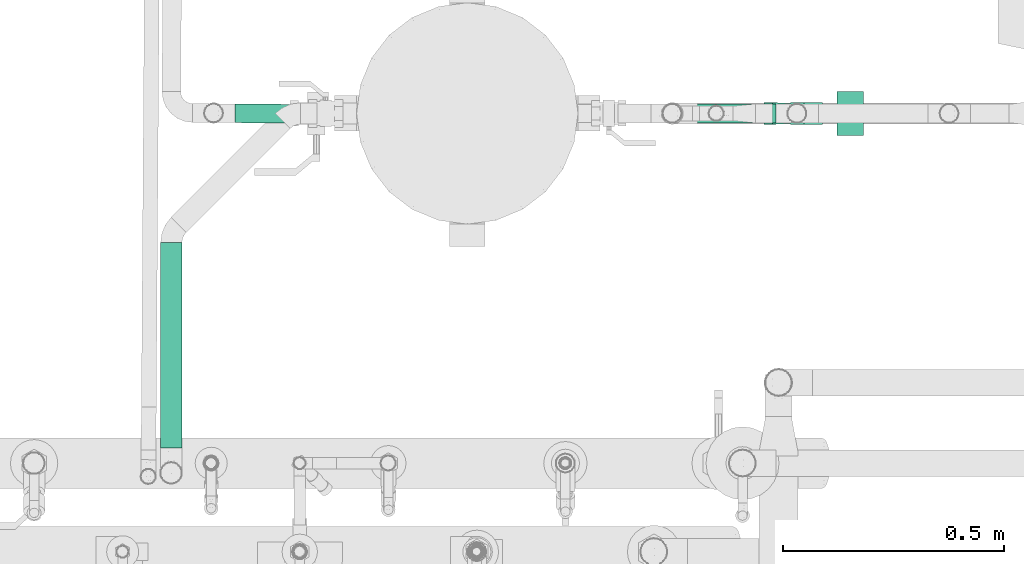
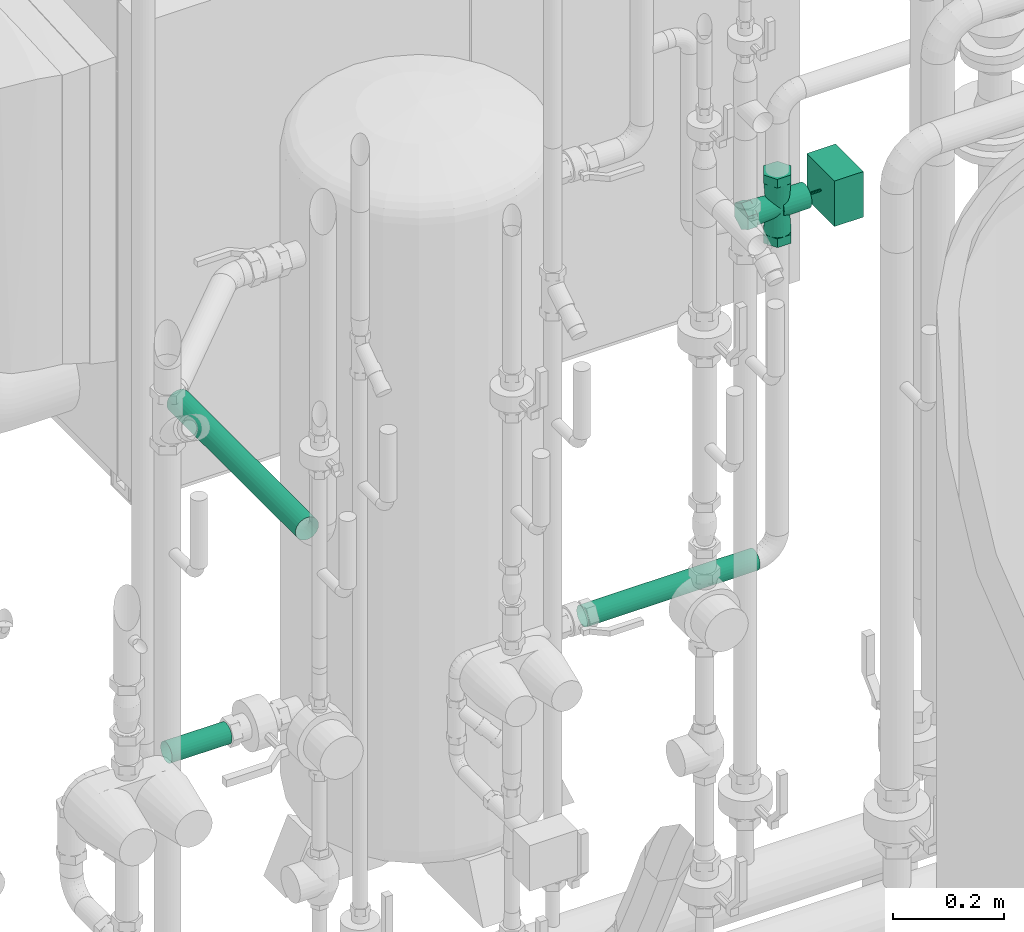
# One storey, part 280 of 374: 3 flow segments, 1 flow controller.
"""IFC2X3 building model written with IfcOpenShell, lengths in metres."""

from ifc_helpers import new_model, si_unit, direction, origin, place, context, subcontext, project, spatial, open_shell, surface_model, source, transform, mapped, element, save


model = new_model("IFC2X3")

# Units and contexts
model_context = context("Model", 3, precision=1e-05, world=origin(), true_north=direction((-0.4480736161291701, 0.8939966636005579)))
body_context = subcontext(model_context, "Body", "Model", "MODEL_VIEW")
ifc_project = project(units=[si_unit("LENGTHUNIT", "METRE"), si_unit("AREAUNIT", "SQUARE_METRE"), si_unit("VOLUMEUNIT", "CUBIC_METRE"), si_unit("PLANEANGLEUNIT", "RADIAN"), si_unit("THERMODYNAMICTEMPERATUREUNIT", "KELVIN"), si_unit("MASSUNIT", "GRAM", prefix="KILO"), si_unit("TIMEUNIT", "SECOND")], contexts=[model_context])

# Site, building, storey
site_placement = place(None, origin())
site = spatial("IfcSite", under=ifc_project, at=site_placement, Name="Site 1", CompositionType="ELEMENT")
building_placement = place(site_placement, origin())
building = spatial("IfcBuilding", under=site, at=building_placement, Name="Undefined", CompositionType="ELEMENT")
storey_placement = place(building_placement, origin())
storey = spatial("IfcBuildingStorey", under=building, at=storey_placement, Name="Rez de chauss\x8ee", CompositionType="ELEMENT", Elevation=0.0)

# Flow controller
shared_shape_1 = source(origin(), body_context, "Body", "SurfaceModel", [
    surface_model("IfcFaceBasedSurfaceModel", [(0.0, 0.0, 0.0), (0.10000000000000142, 8.8817842e-16, 1.776356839e-15), (0.10000000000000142, 0.09999999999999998, 0.0), (0.0, 0.09999999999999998, 0.0), (0.10000000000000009, 0.09999999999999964, -0.05999999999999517), (0.0, 0.09999999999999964, -0.05999999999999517), (0.10000000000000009, 0.0, -0.05999999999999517), (0.0, 0.0, -0.05999999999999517), (-0.02499999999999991, 0.025000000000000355, 0.10443375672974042), (-0.02499999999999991, 0.025000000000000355, 0.07556624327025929), (-0.005900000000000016, 0.025000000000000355, 0.07556624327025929), (-0.005900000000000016, 0.025000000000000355, 0.10443375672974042), (-0.02499999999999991, 0.049999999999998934, 0.11886751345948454), (-0.005900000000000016, 0.049999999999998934, 0.11886751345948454), (-0.02499999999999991, 0.07499999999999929, 0.10443375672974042), (-0.005900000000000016, 0.07499999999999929, 0.10443375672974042), (-0.02499999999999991, 0.07499999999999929, 0.07556624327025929), (-0.005900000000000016, 0.07499999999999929, 0.07556624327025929), (-0.02499999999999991, 0.049999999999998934, 0.06113248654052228), (-0.005900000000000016, 0.049999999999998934, 0.06113248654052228), (-0.005900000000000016, 0.049999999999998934, 0.11500000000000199), (-0.005900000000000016, 0.04352952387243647, 0.11414814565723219), (0.050000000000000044, 0.044513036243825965, 0.11047762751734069), (0.050000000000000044, 0.049999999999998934, 0.11120000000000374), (-0.005900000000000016, 0.037499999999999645, 0.11165063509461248), (0.050000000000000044, 0.03939999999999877, 0.10835973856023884), (-0.005900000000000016, 0.03232233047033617, 0.1076776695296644), (0.050000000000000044, 0.03500933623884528, 0.10499066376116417), (-0.005900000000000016, 0.028349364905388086, 0.10249999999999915), (0.050000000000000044, 0.03164026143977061, 0.10060000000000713), (-0.005900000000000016, 0.02585185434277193, 0.0964704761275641), (0.050000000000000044, 0.02952237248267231, 0.09548696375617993), (-0.005900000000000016, 0.025000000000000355, 0.09000000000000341), (0.050000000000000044, 0.028799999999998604, 0.09000000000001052), (-0.005900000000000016, 0.02585185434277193, 0.08352952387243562), (0.050000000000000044, 0.02952237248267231, 0.084513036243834), (-0.005900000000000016, 0.028349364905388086, 0.07750000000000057), (0.050000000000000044, 0.03164026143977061, 0.0794000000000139), (-0.005900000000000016, 0.03232233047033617, 0.07232233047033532), (0.050000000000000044, 0.03500933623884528, 0.07500933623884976), (-0.005900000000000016, 0.037499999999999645, 0.06834936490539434), (0.050000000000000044, 0.03939999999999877, 0.0716402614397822), (-0.005900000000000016, 0.04352952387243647, 0.06585185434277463), (0.050000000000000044, 0.044513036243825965, 0.06952237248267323), (-0.005900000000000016, 0.049999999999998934, 0.06500000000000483), (0.050000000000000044, 0.049999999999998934, 0.06880000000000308), (-0.005900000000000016, 0.0564704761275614, 0.06585185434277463), (0.050000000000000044, 0.05548696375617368, 0.06952237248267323), (-0.005900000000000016, 0.0625, 0.06834936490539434), (0.050000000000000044, 0.060600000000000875, 0.0716402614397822), (-0.005900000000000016, 0.06767766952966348, 0.07232233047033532), (0.050000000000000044, 0.06499066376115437, 0.07500933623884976), (-0.005900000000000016, 0.07165063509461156, 0.07750000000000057), (0.050000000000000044, 0.06835973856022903, 0.0794000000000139), (-0.005900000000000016, 0.07414814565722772, 0.08352952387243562), (0.050000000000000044, 0.07047762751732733, 0.084513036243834), (-0.005900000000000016, 0.07499999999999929, 0.09000000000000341), (0.050000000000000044, 0.07120000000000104, 0.09000000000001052), (-0.005900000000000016, 0.07414814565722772, 0.0964704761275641), (0.050000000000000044, 0.07047762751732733, 0.09548696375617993), (-0.005900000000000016, 0.07165063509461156, 0.10249999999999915), (0.050000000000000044, 0.06835973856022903, 0.10060000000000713), (-0.005900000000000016, 0.06767766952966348, 0.1076776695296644), (0.050000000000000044, 0.06499066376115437, 0.10499066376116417), (-0.005900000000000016, 0.0625, 0.11165063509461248), (0.050000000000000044, 0.060600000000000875, 0.10835973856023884), (-0.005900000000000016, 0.0564704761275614, 0.11414814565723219), (0.050000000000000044, 0.05548696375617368, 0.11047762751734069), (0.10589999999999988, 0.043529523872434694, 0.11414814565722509), (0.10589999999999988, 0.04999999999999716, 0.11499999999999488), (0.10589999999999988, 0.03749999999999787, 0.11165063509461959), (0.10589999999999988, 0.03232233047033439, 0.1076776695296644), (0.10589999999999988, 0.028349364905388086, 0.10249999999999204), (0.10589999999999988, 0.02585185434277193, 0.09647047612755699), (0.10589999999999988, 0.02499999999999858, 0.0899999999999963), (0.10589999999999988, 0.02585185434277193, 0.08352952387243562), (0.10589999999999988, 0.028349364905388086, 0.07750000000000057), (0.10589999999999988, 0.03232233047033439, 0.07232233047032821), (0.10589999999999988, 0.03749999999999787, 0.06834936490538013), (0.10589999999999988, 0.043529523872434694, 0.06585185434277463), (0.10589999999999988, 0.04999999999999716, 0.06500000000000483), (0.10589999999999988, 0.0564704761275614, 0.06585185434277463), (0.10589999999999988, 0.0625, 0.06834936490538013), (0.10589999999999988, 0.06767766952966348, 0.07232233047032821), (0.10589999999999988, 0.07165063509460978, 0.07750000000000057), (0.10589999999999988, 0.07414814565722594, 0.08352952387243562), (0.10589999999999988, 0.07499999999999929, 0.0899999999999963), (0.10589999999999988, 0.07414814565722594, 0.09647047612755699), (0.10589999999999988, 0.07165063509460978, 0.10249999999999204), (0.10589999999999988, 0.06767766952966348, 0.1076776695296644), (0.10589999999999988, 0.0625, 0.11165063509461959), (0.10589999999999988, 0.0564704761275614, 0.11414814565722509), (0.1059000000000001, 0.025000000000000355, 0.10443375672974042), (0.1059000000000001, 0.025000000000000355, 0.07556624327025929), (0.125, 0.025000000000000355, 0.07556624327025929), (0.125, 0.025000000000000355, 0.10443375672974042), (0.1059000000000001, 0.049999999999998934, 0.11886751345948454), (0.125, 0.049999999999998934, 0.11886751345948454), (0.1059000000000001, 0.07499999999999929, 0.10443375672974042), (0.125, 0.07499999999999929, 0.10443375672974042), (0.1059000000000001, 0.07499999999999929, 0.07556624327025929), (0.125, 0.07499999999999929, 0.07556624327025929), (0.1059000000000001, 0.049999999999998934, 0.06113248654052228), (0.125, 0.049999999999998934, 0.06113248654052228), (0.050000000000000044, 0.07499999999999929, 0.09000000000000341), (0.05647047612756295, 0.07414814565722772, 0.09000000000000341), (0.05647047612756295, 0.07414814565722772, 0.03249999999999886), (0.050000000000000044, 0.07499999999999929, 0.03249999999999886), (0.0625, 0.07165063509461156, 0.09000000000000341), (0.0625, 0.07165063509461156, 0.03249999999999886), (0.0676776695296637, 0.06767766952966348, 0.09000000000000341), (0.0676776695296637, 0.06767766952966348, 0.03249999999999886), (0.07165063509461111, 0.0625, 0.09000000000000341), (0.07165063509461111, 0.0625, 0.03249999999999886), (0.07414814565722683, 0.0564704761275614, 0.09000000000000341), (0.07414814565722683, 0.0564704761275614, 0.03249999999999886), (0.07500000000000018, 0.049999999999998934, 0.09000000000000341), (0.07500000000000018, 0.049999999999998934, 0.03249999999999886), (0.07414814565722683, 0.04352952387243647, 0.09000000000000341), (0.07414814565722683, 0.04352952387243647, 0.03249999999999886), (0.07165063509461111, 0.037499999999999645, 0.09000000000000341), (0.07165063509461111, 0.037499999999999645, 0.03249999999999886), (0.0676776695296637, 0.03232233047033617, 0.09000000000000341), (0.0676776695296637, 0.03232233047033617, 0.03249999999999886), (0.0625, 0.028349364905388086, 0.09000000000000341), (0.0625, 0.028349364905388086, 0.03249999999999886), (0.05647047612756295, 0.02585185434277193, 0.09000000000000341), (0.05647047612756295, 0.02585185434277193, 0.03249999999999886), (0.050000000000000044, 0.025000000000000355, 0.09000000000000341), (0.050000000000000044, 0.025000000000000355, 0.03249999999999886), (0.04352952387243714, 0.02585185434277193, 0.09000000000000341), (0.04352952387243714, 0.02585185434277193, 0.03249999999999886), (0.03750000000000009, 0.028349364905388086, 0.09000000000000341), (0.03750000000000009, 0.028349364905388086, 0.03249999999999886), (0.03232233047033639, 0.03232233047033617, 0.09000000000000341), (0.03232233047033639, 0.03232233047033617, 0.03249999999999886), (0.028349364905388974, 0.037499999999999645, 0.09000000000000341), (0.028349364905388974, 0.037499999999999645, 0.03249999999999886), (0.025851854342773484, 0.04352952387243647, 0.09000000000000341), (0.025851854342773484, 0.04352952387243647, 0.03249999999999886), (0.025000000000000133, 0.049999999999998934, 0.09000000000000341), (0.025000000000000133, 0.049999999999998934, 0.03249999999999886), (0.025851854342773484, 0.0564704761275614, 0.09000000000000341), (0.025851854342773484, 0.0564704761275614, 0.03249999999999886), (0.028349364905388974, 0.0625, 0.09000000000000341), (0.028349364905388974, 0.0625, 0.03249999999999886), (0.03232233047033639, 0.06767766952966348, 0.09000000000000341), (0.03232233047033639, 0.06767766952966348, 0.03249999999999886), (0.03750000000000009, 0.07165063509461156, 0.09000000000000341), (0.03750000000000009, 0.07165063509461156, 0.03249999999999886), (0.04352952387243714, 0.07414814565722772, 0.09000000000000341), (0.04352952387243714, 0.07414814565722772, 0.03249999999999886), (0.050000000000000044, 0.049999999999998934, 0.09000000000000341), (0.050000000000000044, 0.049999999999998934, 0.03249999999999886), (0.050000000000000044, 0.05250000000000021, 0.03249999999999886), (0.05176776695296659, 0.05176776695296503, 0.03249999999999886), (0.05176776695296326, 0.051767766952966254, 0.0), (0.04999999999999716, 0.05249999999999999, 0.0), (0.05249999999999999, 0.049999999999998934, 0.03249999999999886), (0.052499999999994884, 0.04999999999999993, 0.0), (0.05176776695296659, 0.04823223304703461, 0.03249999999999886), (0.05176776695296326, 0.04823223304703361, 0.0), (0.050000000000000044, 0.04749999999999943, 0.03249999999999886), (0.04999999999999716, 0.04749999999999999, 0.0), (0.048232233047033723, 0.04823223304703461, 0.03249999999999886), (0.04823223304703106, 0.04823223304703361, 0.0), (0.0475000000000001, 0.049999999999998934, 0.03249999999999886), (0.04749999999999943, 0.04999999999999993, 0.0), (0.048232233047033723, 0.05176776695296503, 0.03249999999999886), (0.04823223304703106, 0.051767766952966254, 0.0), (0.05000000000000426, 0.04999999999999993, 0.0), (0.028799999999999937, 0.049999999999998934, 0.09000000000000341), (0.029522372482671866, 0.044513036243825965, 0.09000000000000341), (0.025851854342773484, 0.04352952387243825, 0.14590000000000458), (0.025000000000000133, 0.05000000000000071, 0.14590000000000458), (0.031640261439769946, 0.03939999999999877, 0.09000000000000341), (0.028349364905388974, 0.03750000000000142, 0.14590000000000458), (0.03500933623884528, 0.03500933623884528, 0.09000000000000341), (0.03232233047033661, 0.032322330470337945, 0.14590000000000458), (0.0394000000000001, 0.03164026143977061, 0.09000000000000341), (0.03750000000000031, 0.028349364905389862, 0.14590000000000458), (0.04451303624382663, 0.02952237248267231, 0.09000000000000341), (0.04352952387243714, 0.025851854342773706, 0.14590000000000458), (0.050000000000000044, 0.025000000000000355, 0.14590000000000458), (0.05548696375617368, 0.02952237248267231, 0.09000000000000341), (0.056470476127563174, 0.025851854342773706, 0.14590000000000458), (0.06059999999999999, 0.03164026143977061, 0.09000000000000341), (0.0625, 0.028349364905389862, 0.14590000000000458), (0.06499066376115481, 0.03500933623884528, 0.09000000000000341), (0.0676776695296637, 0.032322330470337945, 0.14590000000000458), (0.06835973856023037, 0.03939999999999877, 0.09000000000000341), (0.07165063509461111, 0.03750000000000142, 0.14590000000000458), (0.07047762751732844, 0.044513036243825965, 0.09000000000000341), (0.07414814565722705, 0.04352952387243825, 0.14590000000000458), (0.07120000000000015, 0.049999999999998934, 0.09000000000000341), (0.0750000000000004, 0.05000000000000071, 0.14590000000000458), (0.07047762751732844, 0.05548696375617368, 0.09000000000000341), (0.07414814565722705, 0.05647047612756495, 0.14590000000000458), (0.06835973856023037, 0.060600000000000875, 0.09000000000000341), (0.07165063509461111, 0.06250000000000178, 0.14590000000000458), (0.06499066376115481, 0.06499066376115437, 0.09000000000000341), (0.0676776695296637, 0.06767766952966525, 0.14590000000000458), (0.06059999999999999, 0.06835973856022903, 0.09000000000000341), (0.0625, 0.07165063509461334, 0.14590000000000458), (0.05548696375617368, 0.07047762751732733, 0.09000000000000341), (0.056470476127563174, 0.07414814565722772, 0.14590000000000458), (0.050000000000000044, 0.07500000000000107, 0.14590000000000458), (0.04451303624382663, 0.07047762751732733, 0.09000000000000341), (0.04352952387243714, 0.07414814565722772, 0.14590000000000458), (0.0394000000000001, 0.06835973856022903, 0.09000000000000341), (0.03750000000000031, 0.07165063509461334, 0.14590000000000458), (0.03500933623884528, 0.06499066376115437, 0.09000000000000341), (0.03232233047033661, 0.06767766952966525, 0.14590000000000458), (0.031640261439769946, 0.060600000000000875, 0.09000000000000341), (0.028349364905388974, 0.06250000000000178, 0.14590000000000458), (0.029522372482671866, 0.05548696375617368, 0.09000000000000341), (0.025851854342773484, 0.05647047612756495, 0.14590000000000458), (0.06443375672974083, 0.025000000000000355, 0.14590000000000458), (0.07886751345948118, 0.049999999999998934, 0.14590000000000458), (0.07886751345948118, 0.049999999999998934, 0.16499999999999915), (0.06443375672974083, 0.025000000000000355, 0.16499999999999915), (0.03556624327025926, 0.025000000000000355, 0.14590000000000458), (0.03556624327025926, 0.025000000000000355, 0.16499999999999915), (0.021132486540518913, 0.049999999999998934, 0.14590000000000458), (0.021132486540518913, 0.049999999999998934, 0.16499999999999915), (0.03556624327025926, 0.07499999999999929, 0.14590000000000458), (0.03556624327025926, 0.07499999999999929, 0.16499999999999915), (0.06443375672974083, 0.07499999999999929, 0.14590000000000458), (0.06443375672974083, 0.07499999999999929, 0.16499999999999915)], [open_shell([[[0, 1, 2, 3]], [[3, 2, 4, 5]], [[5, 4, 6, 7]], [[7, 6, 1, 0]], [[0, 3, 5, 7]], [[6, 4, 2, 1]], [[8, 9, 10, 11]], [[12, 8, 11, 13]], [[14, 12, 13, 15]], [[16, 14, 15, 17]], [[18, 16, 17, 19]], [[9, 18, 19, 10]], [[9, 8, 12]], [[9, 12, 14]], [[9, 14, 16]], [[9, 16, 18]], [[10, 13, 11]], [[10, 15, 13]], [[10, 17, 15]], [[10, 19, 17]], [[20, 21, 22, 23]], [[21, 24, 25, 22]], [[24, 26, 27, 25]], [[26, 28, 29, 27]], [[28, 30, 31, 29]], [[30, 32, 33, 31]], [[32, 34, 35, 33]], [[34, 36, 37, 35]], [[36, 38, 39, 37]], [[38, 40, 41, 39]], [[40, 42, 43, 41]], [[42, 44, 45, 43]], [[44, 46, 47, 45]], [[46, 48, 49, 47]], [[48, 50, 51, 49]], [[50, 52, 53, 51]], [[52, 54, 55, 53]], [[54, 56, 57, 55]], [[56, 58, 59, 57]], [[58, 60, 61, 59]], [[60, 62, 63, 61]], [[62, 64, 65, 63]], [[64, 66, 67, 65]], [[66, 20, 23, 67]], [[23, 22, 68, 69]], [[22, 25, 70, 68]], [[25, 27, 71, 70]], [[27, 29, 72, 71]], [[29, 31, 73, 72]], [[31, 33, 74, 73]], [[33, 35, 75, 74]], [[35, 37, 76, 75]], [[37, 39, 77, 76]], [[39, 41, 78, 77]], [[41, 43, 79, 78]], [[43, 45, 80, 79]], [[45, 47, 81, 80]], [[47, 49, 82, 81]], [[49, 51, 83, 82]], [[51, 53, 84, 83]], [[53, 55, 85, 84]], [[55, 57, 86, 85]], [[57, 59, 87, 86]], [[59, 61, 88, 87]], [[61, 63, 89, 88]], [[63, 65, 90, 89]], [[65, 67, 91, 90]], [[67, 23, 69, 91]], [[92, 93, 94, 95]], [[96, 92, 95, 97]], [[98, 96, 97, 99]], [[100, 98, 99, 101]], [[102, 100, 101, 103]], [[93, 102, 103, 94]], [[93, 92, 96]], [[93, 96, 98]], [[93, 98, 100]], [[93, 100, 102]], [[94, 97, 95]], [[94, 99, 97]], [[94, 101, 99]], [[94, 103, 101]], [[104, 105, 106, 107]], [[105, 108, 109, 106]], [[108, 110, 111, 109]], [[110, 112, 113, 111]], [[112, 114, 115, 113]], [[114, 116, 117, 115]], [[116, 118, 119, 117]], [[118, 120, 121, 119]], [[120, 122, 123, 121]], [[122, 124, 125, 123]], [[124, 126, 127, 125]], [[126, 128, 129, 127]], [[128, 130, 131, 129]], [[130, 132, 133, 131]], [[132, 134, 135, 133]], [[134, 136, 137, 135]], [[136, 138, 139, 137]], [[138, 140, 141, 139]], [[140, 142, 143, 141]], [[142, 144, 145, 143]], [[144, 146, 147, 145]], [[146, 148, 149, 147]], [[148, 150, 151, 149]], [[150, 104, 107, 151]], [[152, 105, 104]], [[152, 108, 105]], [[152, 110, 108]], [[152, 112, 110]], [[152, 114, 112]], [[152, 116, 114]], [[152, 118, 116]], [[152, 120, 118]], [[152, 122, 120]], [[152, 124, 122]], [[152, 126, 124]], [[152, 128, 126]], [[152, 130, 128]], [[152, 132, 130]], [[152, 134, 132]], [[152, 136, 134]], [[152, 138, 136]], [[152, 140, 138]], [[152, 142, 140]], [[152, 144, 142]], [[152, 146, 144]], [[152, 148, 146]], [[152, 150, 148]], [[152, 104, 150]], [[153, 151, 107]], [[153, 149, 151]], [[153, 147, 149]], [[153, 145, 147]], [[153, 143, 145]], [[153, 141, 143]], [[153, 139, 141]], [[153, 137, 139]], [[153, 135, 137]], [[153, 133, 135]], [[153, 131, 133]], [[153, 129, 131]], [[153, 127, 129]], [[153, 125, 127]], [[153, 123, 125]], [[153, 121, 123]], [[153, 119, 121]], [[153, 117, 119]], [[153, 115, 117]], [[153, 113, 115]], [[153, 111, 113]], [[153, 109, 111]], [[153, 106, 109]], [[153, 107, 106]], [[154, 155, 156, 157]], [[155, 158, 159, 156]], [[158, 160, 161, 159]], [[160, 162, 163, 161]], [[162, 164, 165, 163]], [[164, 166, 167, 165]], [[166, 168, 169, 167]], [[168, 154, 157, 169]], [[170, 169, 157]], [[170, 167, 169]], [[170, 165, 167]], [[170, 163, 165]], [[170, 161, 163]], [[170, 159, 161]], [[170, 156, 159]], [[170, 157, 156]], [[171, 172, 173, 174]], [[172, 175, 176, 173]], [[175, 177, 178, 176]], [[177, 179, 180, 178]], [[179, 181, 182, 180]], [[181, 33, 183, 182]], [[33, 184, 185, 183]], [[184, 186, 187, 185]], [[186, 188, 189, 187]], [[188, 190, 191, 189]], [[190, 192, 193, 191]], [[192, 194, 195, 193]], [[194, 196, 197, 195]], [[196, 198, 199, 197]], [[198, 200, 201, 199]], [[200, 202, 203, 201]], [[202, 204, 205, 203]], [[204, 57, 206, 205]], [[57, 207, 208, 206]], [[207, 209, 210, 208]], [[209, 211, 212, 210]], [[211, 213, 214, 212]], [[213, 215, 216, 214]], [[215, 171, 174, 216]], [[217, 218, 219, 220]], [[221, 217, 220, 222]], [[223, 221, 222, 224]], [[225, 223, 224, 226]], [[227, 225, 226, 228]], [[218, 227, 228, 219]], [[218, 217, 221]], [[218, 221, 223]], [[218, 223, 225]], [[218, 225, 227]], [[219, 222, 220]], [[219, 224, 222]], [[219, 226, 224]], [[219, 228, 226]]])]),
])
flow_controller_placement = place(storey_placement, origin())
element("IfcFlowController", 1, at=flow_controller_placement, inside=storey, Name="Vanne 3 voies", ObjectType="Vanne 3 voies", context=body_context, shape_type="MappedRepresentation", body=[
    mapped(shared_shape_1, transform((54.470571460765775, 11.758084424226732, 1.1835373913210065), x_axis=(0.0, 0.0, -1.0), y_axis=(0.0, -1.0, 0.0), z_axis=(-1.0, 0.0, 0.0))),
])

# Flow segments
shared_shape_2 = source(origin(), body_context, "Body", "SurfaceModel", [
    surface_model("IfcFaceBasedSurfaceModel", [(0.0, 0.005534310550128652, 0.0), (0.0, 0.0, 0.0), (0.35683383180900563, 2.22044605e-16, 0.0), (0.35683383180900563, 0.005534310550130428, -1.776356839e-15), (0.0, -0.00534573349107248, -0.0014323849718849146), (0.35683383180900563, -0.005345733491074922, -0.0014323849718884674), (0.0, -0.010138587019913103, -0.004199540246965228), (0.35683383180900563, -0.010138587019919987, -0.004199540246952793), (0.0, -0.01405193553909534, -0.008112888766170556), (0.35683383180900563, -0.014051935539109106, -0.008112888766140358), (0.0, -0.016819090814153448, -0.012905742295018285), (0.35683383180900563, -0.016819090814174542, -0.012905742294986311), (0.0, -0.018251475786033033, -0.018251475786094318), (0.35683383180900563, -0.018251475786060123, -0.018251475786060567), (0.0, -0.0182514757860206, -0.02378578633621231), (0.35683383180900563, -0.018251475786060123, -0.023785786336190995), (0.0, -0.01681909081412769, -0.029131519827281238), (0.35683383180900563, -0.016819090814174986, -0.02913151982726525), (0.0, -0.014051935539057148, -0.03392437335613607), (0.35683383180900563, -0.014051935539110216, -0.033924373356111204), (0.0, -0.010138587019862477, -0.037837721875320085), (0.35683383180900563, -0.010138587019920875, -0.037837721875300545), (0.0, -0.005345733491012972, -0.040604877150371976), (0.35683383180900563, -0.00534573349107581, -0.04060487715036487), (0.0, 6.4837024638e-14, -0.042037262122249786), (0.35683383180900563, -1.33226763e-15, -0.04203726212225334), (0.0, 0.005534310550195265, -0.04203726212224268), (0.35683383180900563, 0.005534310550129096, -0.04203726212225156), (0.0, 0.010880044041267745, -0.04060487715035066), (0.35683383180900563, 0.010880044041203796, -0.04060487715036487), (0.0, 0.01567289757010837, -0.03783772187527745), (0.35683383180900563, 0.01567289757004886, -0.037837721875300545), (0.0, 0.019586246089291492, -0.033924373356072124), (0.35683383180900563, 0.019586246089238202, -0.033924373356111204), (0.0, 0.0223534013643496, -0.029131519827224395), (0.35683383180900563, 0.022353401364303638, -0.029131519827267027), (0.0, 0.02378578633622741, -0.023785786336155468), (0.35683383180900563, 0.02378578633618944, -0.023785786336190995), (0.0, 0.023785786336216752, -0.01825147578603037), (0.35683383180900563, 0.02378578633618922, -0.018251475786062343), (0.0, 0.022353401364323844, -0.012905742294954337), (0.35683383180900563, 0.022353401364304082, -0.012905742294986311), (0.0, 0.019586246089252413, -0.008112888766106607), (0.35683383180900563, 0.01958624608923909, -0.008112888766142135), (0.0, 0.015672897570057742, -0.004199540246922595), (0.35683383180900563, 0.01567289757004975, -0.004199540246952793), (0.0, 0.010880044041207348, -0.0014323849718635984), (0.35683383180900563, 0.010880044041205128, -0.001432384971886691)], [open_shell([[[0, 1, 2, 3]], [[1, 4, 5, 2]], [[4, 6, 7, 5]], [[6, 8, 9, 7]], [[8, 10, 11, 9]], [[10, 12, 13, 11]], [[12, 14, 15, 13]], [[14, 16, 17, 15]], [[16, 18, 19, 17]], [[18, 20, 21, 19]], [[20, 22, 23, 21]], [[22, 24, 25, 23]], [[24, 26, 27, 25]], [[26, 28, 29, 27]], [[28, 30, 31, 29]], [[30, 32, 33, 31]], [[32, 34, 35, 33]], [[34, 36, 37, 35]], [[36, 38, 39, 37]], [[38, 40, 41, 39]], [[40, 42, 43, 41]], [[42, 44, 45, 43]], [[44, 46, 47, 45]], [[46, 0, 3, 47]]])]),
])
flow_segment_1_placement = place(storey_placement, origin())
element("IfcFlowSegment", 2, at=flow_segment_1_placement, inside=storey, Name="Tube acier d'après DIN 2448", ObjectType="Tube acier d'après DIN 2448", context=body_context, shape_type="MappedRepresentation", body=[
    mapped(shared_shape_2, transform((54.33257146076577, 11.687606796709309, 0.3764869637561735), x_axis=(-1.0, 0.0, 0.0), y_axis=(9.56658874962e-13, -0.13052619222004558, -0.9914448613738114), z_axis=(7.266545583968e-12, -0.9914448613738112, 0.13052619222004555))),
])
shared_shape_3 = source(origin(), body_context, "Body", "SurfaceModel", [
    surface_model("IfcFaceBasedSurfaceModel", [(0.12400000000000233, -2.22044605e-16, 1.776356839e-15), (0.12400000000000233, 0.005534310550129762, 1.776356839e-15), (0.0, 0.005534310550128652, 0.0), (0.0, 0.0, 0.0), (0.12400000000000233, 0.010880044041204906, -0.0014323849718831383), (0.0, 0.010880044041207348, -0.0014323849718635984), (0.12400000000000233, 0.01567289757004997, -0.004199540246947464), (0.0, 0.015672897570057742, -0.004199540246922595), (0.12400000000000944, 0.019586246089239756, -0.008112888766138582), (0.0, 0.019586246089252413, -0.008112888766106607), (0.12400000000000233, 0.022353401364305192, -0.012905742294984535), (0.0, 0.022353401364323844, -0.012905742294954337), (0.12400000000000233, 0.023785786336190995, -0.018251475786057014), (0.0, 0.023785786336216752, -0.01825147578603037), (0.12400000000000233, 0.023785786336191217, -0.023785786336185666), (0.0, 0.02378578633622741, -0.023785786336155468), (0.12400000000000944, 0.022353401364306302, -0.029131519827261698), (0.0, 0.0223534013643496, -0.029131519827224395), (0.12400000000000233, 0.019586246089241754, -0.03392437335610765), (0.0, 0.019586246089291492, -0.033924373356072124), (0.12400000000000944, 0.015672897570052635, -0.037837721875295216), (0.0, 0.01567289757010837, -0.03783772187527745), (0.12400000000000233, 0.010880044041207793, -0.04060487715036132), (0.0, 0.010880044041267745, -0.04060487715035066), (0.12400000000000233, 0.0055343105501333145, -0.04203726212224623), (0.0, 0.005534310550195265, -0.04203726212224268), (0.12400000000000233, 2.886579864e-15, -0.04203726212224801), (0.0, 6.4837024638e-14, -0.042037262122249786), (0.12400000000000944, -0.0053457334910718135, -0.04060487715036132), (0.0, -0.005345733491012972, -0.040604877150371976), (0.12400000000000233, -0.0101385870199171, -0.03783772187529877), (0.0, -0.010138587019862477, -0.037837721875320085), (0.12400000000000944, -0.014051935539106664, -0.03392437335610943), (0.0, -0.014051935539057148, -0.03392437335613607), (0.12400000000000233, -0.01681909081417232, -0.029131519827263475), (0.0, -0.01681909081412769, -0.029131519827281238), (0.12400000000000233, -0.018251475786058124, -0.023785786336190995), (0.0, -0.0182514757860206, -0.02378578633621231), (0.12400000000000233, -0.01825147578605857, -0.018251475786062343), (0.0, -0.018251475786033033, -0.018251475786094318), (0.12400000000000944, -0.01681909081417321, -0.012905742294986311), (0.0, -0.016819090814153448, -0.012905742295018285), (0.12400000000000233, -0.014051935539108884, -0.008112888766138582), (0.0, -0.01405193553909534, -0.008112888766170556), (0.12400000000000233, -0.010138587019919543, -0.0041995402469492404), (0.0, -0.010138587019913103, -0.004199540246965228), (0.12400000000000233, -0.005345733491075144, -0.0014323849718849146), (0.0, -0.00534573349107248, -0.0014323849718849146)], [open_shell([[[0, 1, 2, 3]], [[1, 4, 5, 2]], [[4, 6, 7, 5]], [[6, 8, 9, 7]], [[8, 10, 11, 9]], [[10, 12, 13, 11]], [[12, 14, 15, 13]], [[14, 16, 17, 15]], [[16, 18, 19, 17]], [[18, 20, 21, 19]], [[20, 22, 23, 21]], [[22, 24, 25, 23]], [[24, 26, 27, 25]], [[26, 28, 29, 27]], [[28, 30, 31, 29]], [[30, 32, 33, 31]], [[32, 34, 35, 33]], [[34, 36, 37, 35]], [[36, 38, 39, 37]], [[38, 40, 41, 39]], [[40, 42, 43, 41]], [[42, 44, 45, 43]], [[44, 46, 47, 45]], [[46, 0, 3, 47]]])]),
])
flow_segment_2_placement = place(storey_placement, origin())
element("IfcFlowSegment", 3, at=flow_segment_2_placement, inside=storey, Name="Tube acier d'après DIN 2448", ObjectType="Tube acier d'après DIN 2448", context=body_context, shape_type="MappedRepresentation", body=[
    mapped(shared_shape_3, transform((53.23507226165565, 11.68631886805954, 0.3741499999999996), x_axis=(-0.9999756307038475, 0.00698126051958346, -2.3185921e-16), y_axis=(0.0009112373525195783, 0.13052301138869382, -0.9914448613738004), z_axis=(-0.006921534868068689, -0.9914207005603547, -0.1305261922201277))),
])
shared_shape_4 = source(origin(), body_context, "Body", "SurfaceModel", [
    surface_model("IfcFaceBasedSurfaceModel", [(0.0, 0.006304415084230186, 7.105427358e-15), (0.0, 0.0, 0.0), (0.46326517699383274, 0.0, 8.8817842e-16), (0.46326517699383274, 0.006304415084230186, 8.8817842e-16), (0.0, -0.006089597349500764, -0.0016317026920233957), (0.46326517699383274, -0.006089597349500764, -0.001631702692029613), (0.0, -0.011549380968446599, -0.004783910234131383), (0.46326517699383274, -0.011549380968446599, -0.004783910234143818), (0.0, -0.016007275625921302, -0.009241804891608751), (0.46326517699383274, -0.01600727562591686, -0.009241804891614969), (0.0, -0.01915948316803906, -0.014701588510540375), (0.46326517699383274, -0.019159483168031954, -0.014701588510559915), (0.0, -0.020791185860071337, -0.020791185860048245), (0.46326517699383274, -0.020791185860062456, -0.020791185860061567), (0.0, -0.020791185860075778, -0.027095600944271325), (0.46326517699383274, -0.020791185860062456, -0.027095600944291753), (0.0, -0.01915948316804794, -0.03318519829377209), (0.46326517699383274, -0.019159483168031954, -0.03318519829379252), (0.0, -0.01600727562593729, -0.038644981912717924), (0.46326517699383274, -0.01600727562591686, -0.03864498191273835), (0.0, -0.011549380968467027, -0.0431028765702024), (0.46326517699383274, -0.011549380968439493, -0.04310287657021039), (0.0, -0.006089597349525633, -0.04625508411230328), (0.46326517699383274, -0.006089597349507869, -0.046255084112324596), (0.0, -2.4868995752e-14, -0.04788678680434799), (0.46326517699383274, 0.0, -0.04788678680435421), (0.0, 0.006304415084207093, -0.047886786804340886), (0.46326517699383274, 0.006304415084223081, -0.0478867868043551), (0.0, 0.012394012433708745, -0.046255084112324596), (0.46326517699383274, 0.012394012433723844, -0.04625508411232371), (0.0, 0.01785379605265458, -0.0431028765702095), (0.46326517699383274, 0.01785379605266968, -0.04310287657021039), (0.0, 0.022311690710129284, -0.03864498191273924), (0.46326517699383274, 0.022311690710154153, -0.03864498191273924), (0.0, 0.02546389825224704, -0.03318519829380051), (0.46326517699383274, 0.02546389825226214, -0.033185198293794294), (0.0, 0.02709560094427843, -0.027095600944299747), (0.46326517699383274, 0.027095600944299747, -0.027095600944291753), (0.0, 0.02709560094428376, -0.02079118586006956), (0.46326517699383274, 0.02709560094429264, -0.020791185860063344), (0.0, 0.025463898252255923, -0.014701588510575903), (0.46326517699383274, 0.025463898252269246, -0.014701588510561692), (0.0, 0.02231169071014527, -0.009241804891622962), (0.46326517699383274, 0.022311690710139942, -0.009241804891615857), (0.0, 0.01785379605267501, -0.004783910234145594), (0.46326517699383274, 0.017853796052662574, -0.00478391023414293), (0.0, 0.012394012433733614, -0.0016317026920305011), (0.46326517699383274, 0.01239401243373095, -0.001631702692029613)], [open_shell([[[0, 1, 2, 3]], [[1, 4, 5, 2]], [[4, 6, 7, 5]], [[6, 8, 9, 7]], [[8, 10, 11, 9]], [[10, 12, 13, 11]], [[12, 14, 15, 13]], [[14, 16, 17, 15]], [[16, 18, 19, 17]], [[18, 20, 21, 19]], [[20, 22, 23, 21]], [[22, 24, 25, 23]], [[24, 26, 27, 25]], [[26, 28, 29, 27]], [[28, 30, 31, 29]], [[30, 32, 33, 31]], [[32, 34, 35, 33]], [[34, 36, 37, 35]], [[36, 38, 39, 37]], [[38, 40, 41, 39]], [[40, 42, 43, 41]], [[42, 44, 45, 43]], [[44, 46, 47, 45]], [[46, 0, 3, 47]]])]),
])
flow_segment_3_placement = place(storey_placement, origin())
element("IfcFlowSegment", 4, at=flow_segment_3_placement, inside=storey, Name="Tube acier d'après DIN 2448", ObjectType="Tube acier d'après DIN 2448", context=body_context, shape_type="MappedRepresentation", body=[
    mapped(shared_shape_4, transform((52.961077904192, 11.416075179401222, 1.3974771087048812), x_axis=(0.0, -1.0, 0.0), y_axis=(0.9914448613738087, 0.0, 0.13052619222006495), z_axis=(-0.13052619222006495, 0.0, 0.9914448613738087))),
])

save(model, "model.ifc")
